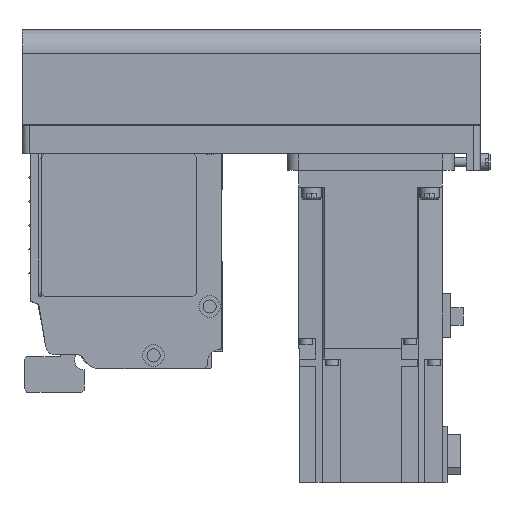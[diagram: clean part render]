
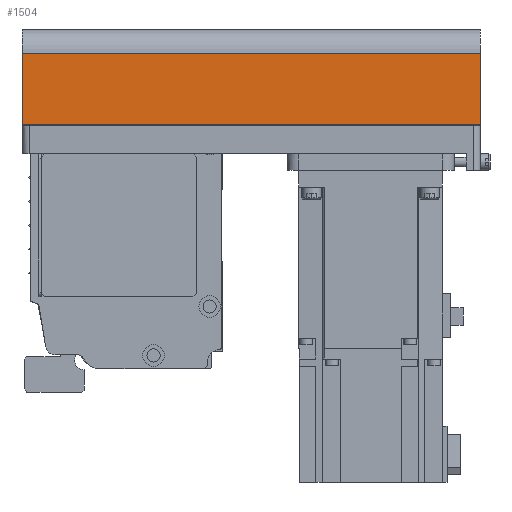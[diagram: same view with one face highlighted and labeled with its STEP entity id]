
A CAD part, left-side view. The second image highlights one B-rep face of the part: STEP entity #1504.
In plain terms, the highlighted planar face has unit normal (-1, 0, 0) as drawn and (0, -1, 0) by its records, which use the part's own axes.
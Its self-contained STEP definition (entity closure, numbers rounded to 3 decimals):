
#1504 = ADVANCED_FACE( '', ( #3392 ), #3393, .T. );
#3392 = FACE_OUTER_BOUND( '', #5736, .T. );
#3393 = PLANE( '', #5737 );
#5736 = EDGE_LOOP( '', ( #9697, #9698, #9699, #9700 ) );
#5737 = AXIS2_PLACEMENT_3D( '', #9701, #9702, #9703 );
#9697 = ORIENTED_EDGE( '', *, *, #14060, .F. );
#9698 = ORIENTED_EDGE( '', *, *, #14798, .F. );
#9699 = ORIENTED_EDGE( '', *, *, #14513, .T. );
#9700 = ORIENTED_EDGE( '', *, *, #14799, .T. );
#9701 = CARTESIAN_POINT( '', ( -192., -40., -12.1 ) );
#9702 = DIRECTION( '', ( 0., -1., 0. ) );
#9703 = DIRECTION( '', ( 0., 0., -1. ) );
#14060 = EDGE_CURVE( '', #17024, #17026, #17027, .T. );
#14513 = EDGE_CURVE( '', #17734, #17742, #17744, .T. );
#14798 = EDGE_CURVE( '', #17734, #17024, #18179, .T. );
#14799 = EDGE_CURVE( '', #17742, #17026, #18180, .T. );
#17024 = VERTEX_POINT( '', #21025 );
#17026 = VERTEX_POINT( '', #21028 );
#17027 = LINE( '', #21029, #21030 );
#17734 = VERTEX_POINT( '', #21992 );
#17742 = VERTEX_POINT( '', #22003 );
#17744 = LINE( '', #22005, #22006 );
#18179 = LINE( '', #22595, #22596 );
#18180 = LINE( '', #22597, #22598 );
#21025 = CARTESIAN_POINT( '', ( 0., -40., -12.1 ) );
#21028 = CARTESIAN_POINT( '', ( 0., -40., -42. ) );
#21029 = CARTESIAN_POINT( '', ( 0., -40., -12.1 ) );
#21030 = VECTOR( '', #25234, 1000. );
#21992 = CARTESIAN_POINT( '', ( -192., -40., -12.1 ) );
#22003 = CARTESIAN_POINT( '', ( -192., -40., -42. ) );
#22005 = CARTESIAN_POINT( '', ( -192., -40., -12.1 ) );
#22006 = VECTOR( '', #25772, 1000. );
#22595 = CARTESIAN_POINT( '', ( -192., -40., -12.1 ) );
#22596 = VECTOR( '', #26098, 1000. );
#22597 = CARTESIAN_POINT( '', ( -192., -40., -42. ) );
#22598 = VECTOR( '', #26099, 1000. );
#25234 = DIRECTION( '', ( 0., 0., -1. ) );
#25772 = DIRECTION( '', ( 0., 0., -1. ) );
#26098 = DIRECTION( '', ( 1., 0., 0. ) );
#26099 = DIRECTION( '', ( 1., 0., 0. ) );
